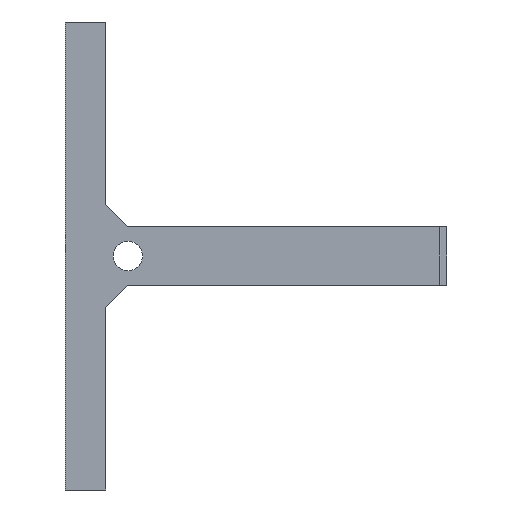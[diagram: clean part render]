
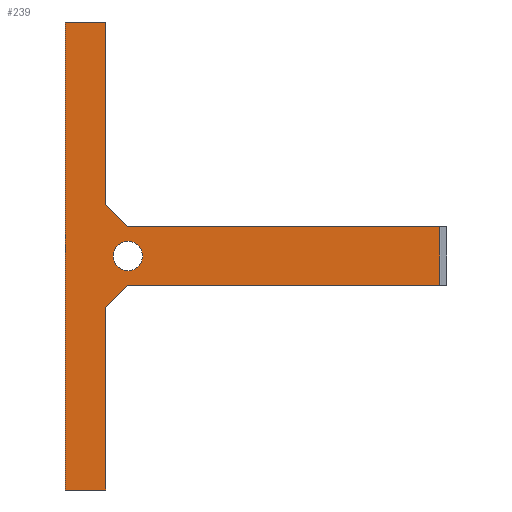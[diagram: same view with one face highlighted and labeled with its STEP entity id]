
A CAD part, left-side view. The second image highlights one B-rep face of the part: STEP entity #239.
In plain terms, the highlighted planar face has unit normal (-1, 0, 0).
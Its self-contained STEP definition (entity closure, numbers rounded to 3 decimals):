
#126=PLANE('',#1377);
#239=ADVANCED_FACE('',(#622,#623),#126,.F.);
#349=LINE('',#1878,#513);
#350=LINE('',#1881,#514);
#351=LINE('',#1883,#515);
#352=LINE('',#1885,#516);
#353=LINE('',#1887,#517);
#354=LINE('',#1889,#518);
#355=LINE('',#1891,#519);
#356=LINE('',#1893,#520);
#357=LINE('',#1895,#521);
#358=LINE('',#1897,#522);
#513=VECTOR('',#1535,1.);
#514=VECTOR('',#1536,1.);
#515=VECTOR('',#1537,1.);
#516=VECTOR('',#1538,1.);
#517=VECTOR('',#1539,1.);
#518=VECTOR('',#1540,1.);
#519=VECTOR('',#1541,1.);
#520=VECTOR('',#1542,1.);
#521=VECTOR('',#1543,1.);
#522=VECTOR('',#1544,1.);
#622=FACE_BOUND('',#643,.T.);
#623=FACE_BOUND('',#644,.T.);
#643=EDGE_LOOP('',(#773));
#644=EDGE_LOOP('',(#774,#775,#776,#777,#778,#779,#780,#781,#782,#783));
#773=ORIENTED_EDGE('',*,*,#1167,.F.);
#774=ORIENTED_EDGE('',*,*,#1228,.F.);
#775=ORIENTED_EDGE('',*,*,#1229,.F.);
#776=ORIENTED_EDGE('',*,*,#1230,.F.);
#777=ORIENTED_EDGE('',*,*,#1231,.F.);
#778=ORIENTED_EDGE('',*,*,#1232,.F.);
#779=ORIENTED_EDGE('',*,*,#1233,.F.);
#780=ORIENTED_EDGE('',*,*,#1234,.F.);
#781=ORIENTED_EDGE('',*,*,#1235,.F.);
#782=ORIENTED_EDGE('',*,*,#1236,.T.);
#783=ORIENTED_EDGE('',*,*,#1237,.T.);
#1049=VERTEX_POINT('',#1755);
#1096=VERTEX_POINT('',#1879);
#1097=VERTEX_POINT('',#1880);
#1098=VERTEX_POINT('',#1882);
#1099=VERTEX_POINT('',#1884);
#1100=VERTEX_POINT('',#1886);
#1101=VERTEX_POINT('',#1888);
#1102=VERTEX_POINT('',#1890);
#1103=VERTEX_POINT('',#1892);
#1104=VERTEX_POINT('',#1894);
#1105=VERTEX_POINT('',#1896);
#1167=EDGE_CURVE('',#1049,#1049,#1343,.T.);
#1228=EDGE_CURVE('',#1096,#1097,#349,.T.);
#1229=EDGE_CURVE('',#1098,#1096,#350,.T.);
#1230=EDGE_CURVE('',#1099,#1098,#351,.T.);
#1231=EDGE_CURVE('',#1100,#1099,#352,.T.);
#1232=EDGE_CURVE('',#1101,#1100,#353,.T.);
#1233=EDGE_CURVE('',#1102,#1101,#354,.T.);
#1234=EDGE_CURVE('',#1103,#1102,#355,.T.);
#1235=EDGE_CURVE('',#1104,#1103,#356,.T.);
#1236=EDGE_CURVE('',#1104,#1105,#357,.T.);
#1237=EDGE_CURVE('',#1105,#1097,#358,.T.);
#1343=CIRCLE('',#1358,1.45);
#1358=AXIS2_PLACEMENT_3D('',#1754,#1439,#1440);
#1377=AXIS2_PLACEMENT_3D('',#1898,#1545,#1546);
#1439=DIRECTION('',(-1.,0.,0.));
#1440=DIRECTION('',(0.,1.,0.));
#1535=DIRECTION('',(0.,0.,-1.));
#1536=DIRECTION('',(0.,0.707,-0.707));
#1537=DIRECTION('',(0.,1.,0.));
#1538=DIRECTION('',(0.,0.,-1.));
#1539=DIRECTION('',(0.,-1.,0.));
#1540=DIRECTION('',(0.,-0.707,-0.707));
#1541=DIRECTION('',(0.,0.,-1.));
#1542=DIRECTION('',(0.,-1.,0.));
#1543=DIRECTION('',(0.,0.,-1.));
#1544=DIRECTION('',(0.,-1.,0.));
#1545=DIRECTION('',(1.,0.,0.));
#1546=DIRECTION('',(0.,1.,0.));
#1754=CARTESIAN_POINT('',(1324.401,166.202,23.1));
#1755=CARTESIAN_POINT('',(1324.401,167.652,23.1));
#1878=CARTESIAN_POINT('',(1324.401,168.402,0.));
#1879=CARTESIAN_POINT('',(1324.401,168.402,18.));
#1880=CARTESIAN_POINT('',(1324.401,168.402,0.));
#1881=CARTESIAN_POINT('',(1324.401,168.402,18.));
#1882=CARTESIAN_POINT('',(1324.401,166.202,20.2));
#1883=CARTESIAN_POINT('',(1324.401,166.202,20.2));
#1884=CARTESIAN_POINT('',(1324.401,135.402,20.2));
#1885=CARTESIAN_POINT('',(1324.401,135.402,46.2));
#1886=CARTESIAN_POINT('',(1324.401,135.402,26.));
#1887=CARTESIAN_POINT('',(1324.401,134.702,26.));
#1888=CARTESIAN_POINT('',(1324.401,166.202,26.));
#1889=CARTESIAN_POINT('',(1324.401,166.202,26.));
#1890=CARTESIAN_POINT('',(1324.401,168.402,28.2));
#1891=CARTESIAN_POINT('',(1324.401,168.402,28.2));
#1892=CARTESIAN_POINT('',(1324.401,168.402,46.2));
#1893=CARTESIAN_POINT('',(1324.401,172.402,46.2));
#1894=CARTESIAN_POINT('',(1324.401,172.402,46.2));
#1895=CARTESIAN_POINT('',(1324.401,172.402,46.2));
#1896=CARTESIAN_POINT('',(1324.401,172.402,0.));
#1897=CARTESIAN_POINT('',(1324.401,172.402,0.));
#1898=CARTESIAN_POINT('',(1324.401,172.402,46.2));
